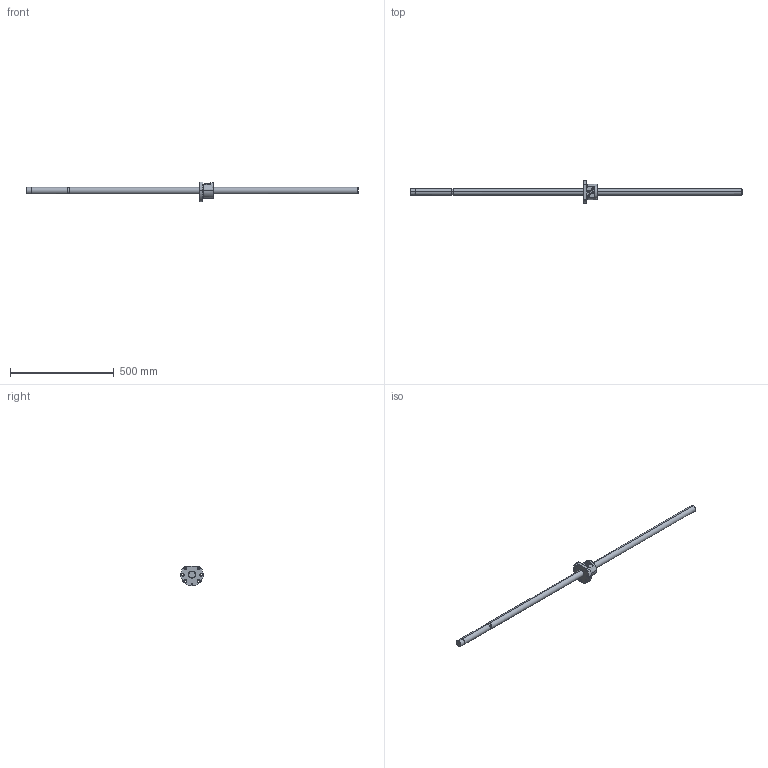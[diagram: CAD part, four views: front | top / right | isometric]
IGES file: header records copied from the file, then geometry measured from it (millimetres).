
Global section: file name: No Iges File Name specified; native system: AutoDesk Inventor R10; preprocessor: AutoDesk Inventor Iges Exporter R10; author: No Author specified; organization: No Organization specified; date: 20101224.142532; units: millimetre
Bounding box: 1600 x 108 x 95 mm (x, y, z)
Surface area: 206993.7 mm2 (no closed solid volume)
Topology: 0 solids, 0 shells, 134 faces, 998 edges, 996 vertices
Faces by surface type: bspline 134
